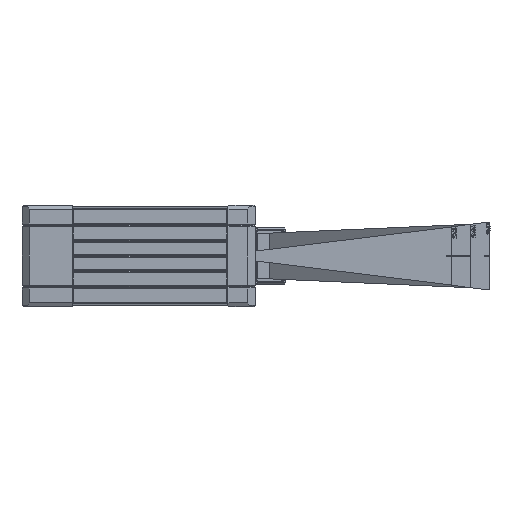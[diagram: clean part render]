
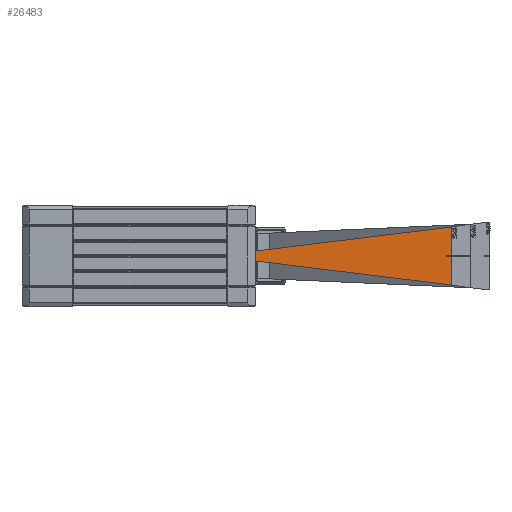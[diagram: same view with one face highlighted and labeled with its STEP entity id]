
A CAD part, left-side view. The second image highlights one B-rep face of the part: STEP entity #26483.
In plain terms, the highlighted planar face has unit normal (-1, 0, 0).
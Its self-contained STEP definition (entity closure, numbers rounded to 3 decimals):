
#3700 = CARTESIAN_POINT ( 'NONE',  ( -43.5, -11., 0. ) ) ;
#13361 = DIRECTION ( 'NONE',  ( 0., 0.993, -0.122 ) ) ;
#17202 = EDGE_CURVE ( 'NONE', #134535, #119371, #97785, .T. ) ;
#18162 = DIRECTION ( 'NONE',  ( 0., 0., 1. ) ) ;
#23169 = VECTOR ( 'NONE', #111351, 1000. ) ;
#26483 = ADVANCED_FACE ( 'NONE', ( #126388 ), #54878, .F. ) ;
#27316 = LINE ( 'NONE', #3700, #164319 ) ;
#32561 = VERTEX_POINT ( 'NONE', #153570 ) ;
#39628 = CARTESIAN_POINT ( 'NONE',  ( -43.501, -88.5, 0. ) ) ;
#40478 = VECTOR ( 'NONE', #161346, 1000. ) ;
#54878 = PLANE ( 'NONE',  #122810 ) ;
#68512 = DIRECTION ( 'NONE',  ( 0., -1., 0. ) ) ;
#82225 = EDGE_LOOP ( 'NONE', ( #131171, #139301, #131631, #177778 ) ) ;
#94851 = DIRECTION ( 'NONE',  ( 1., 0., 0. ) ) ;
#96009 = CARTESIAN_POINT ( 'NONE',  ( -43.5, 0.071, 0.575 ) ) ;
#97785 = LINE ( 'NONE', #96009, #150446 ) ;
#100059 = CARTESIAN_POINT ( 'NONE',  ( -43.5, -11., 1.934 ) ) ;
#105045 = EDGE_CURVE ( 'NONE', #134535, #32561, #166416, .T. ) ;
#111351 = DIRECTION ( 'NONE',  ( 0., 0., -1. ) ) ;
#113656 = VERTEX_POINT ( 'NONE', #121862 ) ;
#119371 = VERTEX_POINT ( 'NONE', #100059 ) ;
#121862 = CARTESIAN_POINT ( 'NONE',  ( -43.5, -11., -1.934 ) ) ;
#122810 = AXIS2_PLACEMENT_3D ( 'NONE', #136358, #94851, #68512 ) ;
#126388 = FACE_OUTER_BOUND ( 'NONE', #82225, .T. ) ;
#131171 = ORIENTED_EDGE ( 'NONE', *, *, #105045, .F. ) ;
#131631 = ORIENTED_EDGE ( 'NONE', *, *, #162140, .F. ) ;
#134535 = VERTEX_POINT ( 'NONE', #157045 ) ;
#136358 = CARTESIAN_POINT ( 'NONE',  ( -43.5, 0., 0. ) ) ;
#136926 = CARTESIAN_POINT ( 'NONE',  ( -43.5, 0.071, -0.575 ) ) ;
#139301 = ORIENTED_EDGE ( 'NONE', *, *, #17202, .T. ) ;
#141337 = EDGE_CURVE ( 'NONE', #32561, #113656, #177583, .T. ) ;
#150446 = VECTOR ( 'NONE', #13361, 1000. ) ;
#153570 = CARTESIAN_POINT ( 'NONE',  ( -43.501, -88.5, -11.45 ) ) ;
#157045 = CARTESIAN_POINT ( 'NONE',  ( -43.501, -88.5, 11.45 ) ) ;
#161346 = DIRECTION ( 'NONE',  ( 0., 0.993, 0.122 ) ) ;
#162140 = EDGE_CURVE ( 'NONE', #113656, #119371, #27316, .T. ) ;
#164319 = VECTOR ( 'NONE', #18162, 1000. ) ;
#166416 = LINE ( 'NONE', #39628, #23169 ) ;
#177583 = LINE ( 'NONE', #136926, #40478 ) ;
#177778 = ORIENTED_EDGE ( 'NONE', *, *, #141337, .F. ) ;
